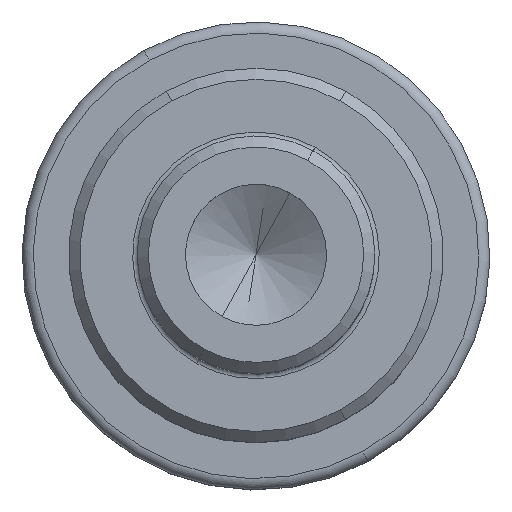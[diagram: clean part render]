
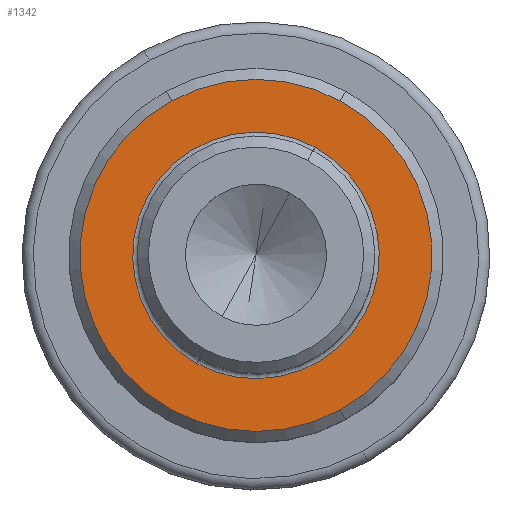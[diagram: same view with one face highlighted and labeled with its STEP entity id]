
A CAD part, top view. The second image highlights one B-rep face of the part: STEP entity #1342.
In plain terms, the highlighted planar face has unit normal (0, 0, 1).
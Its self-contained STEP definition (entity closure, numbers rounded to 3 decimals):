
#112=AXIS2_PLACEMENT_3D('Circle Axis2P3D',#110,#111,$) ;
#815=AXIS2_PLACEMENT_3D('Circle Axis2P3D',#813,#814,$) ;
#850=AXIS2_PLACEMENT_3D('Circle Axis2P3D',#848,#849,$) ;
#1239=AXIS2_PLACEMENT_3D('Circle Axis2P3D',#1237,#1238,$) ;
#1277=AXIS2_PLACEMENT_3D('Circle Axis2P3D',#1275,#1276,$) ;
#1325=AXIS2_PLACEMENT_3D('Plane Axis2P3D',#1322,#1323,#1324) ;
#1329=AXIS2_PLACEMENT_3D('Circle Axis2P3D',#1327,#1328,$) ;
#107=CARTESIAN_POINT('Vertex',(11.362,-20.799,-50.)) ;
#110=CARTESIAN_POINT('Axis2P3D Location',(0.,0.,-50.)) ;
#114=CARTESIAN_POINT('Vertex',(-11.362,-20.799,-50.)) ;
#813=CARTESIAN_POINT('Axis2P3D Location',(0.,0.,-50.)) ;
#817=CARTESIAN_POINT('Vertex',(-7.958,-14.568,-50.)) ;
#819=CARTESIAN_POINT('Vertex',(7.958,14.568,-50.)) ;
#848=CARTESIAN_POINT('Axis2P3D Location',(0.,0.,-50.)) ;
#1228=CARTESIAN_POINT('Vertex',(11.362,20.799,-50.)) ;
#1234=CARTESIAN_POINT('Vertex',(-11.362,20.799,-50.)) ;
#1237=CARTESIAN_POINT('Axis2P3D Location',(0.,0.,-50.)) ;
#1275=CARTESIAN_POINT('Axis2P3D Location',(0.,0.,-50.)) ;
#1322=CARTESIAN_POINT('Axis2P3D Location',(0.,25.2,-50.)) ;
#1327=CARTESIAN_POINT('Axis2P3D Location',(0.,0.,-50.)) ;
#111=DIRECTION('Axis2P3D Direction',(0.,0.,1.)) ;
#814=DIRECTION('Axis2P3D Direction',(0.,0.,-1.)) ;
#849=DIRECTION('Axis2P3D Direction',(0.,0.,-1.)) ;
#1238=DIRECTION('Axis2P3D Direction',(0.,0.,1.)) ;
#1276=DIRECTION('Axis2P3D Direction',(0.,0.,1.)) ;
#1323=DIRECTION('Axis2P3D Direction',(0.,0.,-1.)) ;
#1324=DIRECTION('Axis2P3D XDirection',(1.,0.,0.)) ;
#1328=DIRECTION('Axis2P3D Direction',(0.,0.,-1.)) ;
#1333=ORIENTED_EDGE('',*,*,#116,.F.) ;
#1334=ORIENTED_EDGE('',*,*,#1331,.T.) ;
#1335=ORIENTED_EDGE('',*,*,#1241,.T.) ;
#1336=ORIENTED_EDGE('',*,*,#1279,.T.) ;
#1339=ORIENTED_EDGE('',*,*,#852,.T.) ;
#1340=ORIENTED_EDGE('',*,*,#821,.T.) ;
#1341=FACE_BOUND('',#1338,.T.) ;
#1342=ADVANCED_FACE('NOCUT',(#1337,#1341),#1326,.F.) ;
#113=CIRCLE('generated circle',#112,23.7) ;
#816=CIRCLE('generated circle',#815,16.6) ;
#851=CIRCLE('generated circle',#850,16.6) ;
#1240=CIRCLE('generated circle',#1239,23.7) ;
#1278=CIRCLE('generated circle',#1277,23.7) ;
#1330=CIRCLE('generated circle',#1329,23.7) ;
#116=EDGE_CURVE('',#108,#115,#113,.F.) ;
#821=EDGE_CURVE('',#818,#820,#816,.T.) ;
#852=EDGE_CURVE('',#820,#818,#851,.T.) ;
#1241=EDGE_CURVE('',#1229,#1235,#1240,.T.) ;
#1279=EDGE_CURVE('',#1235,#115,#1278,.T.) ;
#1331=EDGE_CURVE('',#108,#1229,#1330,.F.) ;
#1332=EDGE_LOOP('',(#1333,#1334,#1335,#1336)) ;
#1338=EDGE_LOOP('',(#1339,#1340)) ;
#1337=FACE_OUTER_BOUND('',#1332,.T.) ;
#1326=PLANE('',#1325) ;
#108=VERTEX_POINT('',#107) ;
#115=VERTEX_POINT('',#114) ;
#818=VERTEX_POINT('',#817) ;
#820=VERTEX_POINT('',#819) ;
#1229=VERTEX_POINT('',#1228) ;
#1235=VERTEX_POINT('',#1234) ;
